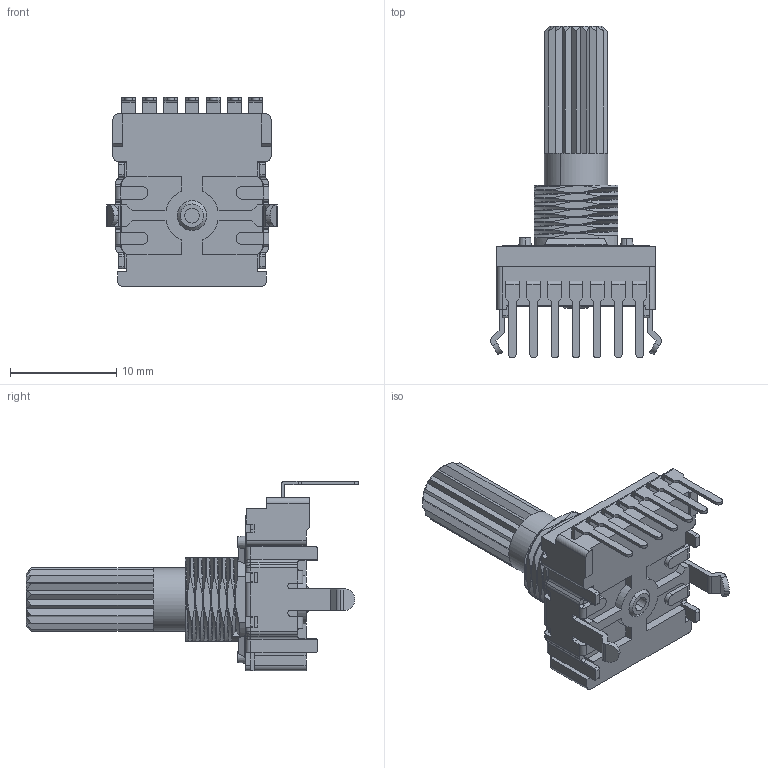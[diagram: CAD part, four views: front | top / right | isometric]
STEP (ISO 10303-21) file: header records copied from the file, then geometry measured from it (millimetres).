
FILE_DESCRIPTION (( 'STEP AP203' ), '1' );
FILE_NAME ('P140KH1-Y20.STEP', '2026-09-15T18:48:59', ( '' ), ( '' ), 'SwSTEP 2.0', 'SolidWorks 2026', '' );
FILE_SCHEMA (( 'CONFIG_CONTROL_DESIGN' ));
Length unit declared in the file: millimetre
Products named in the file (8): spring_plate; KH1 bracket; bushing; 1-Y20; Housing; KH-housing; V-terminal; P140KH1-Y20
Assembly tree (13 placements, depth 3):
  P140KH1-Y20
    KH-housing
      Housing
      V-terminal  x7
    1-Y20
    spring_plate
    bushing
    KH1 bracket
Bounding box: 16.1 x 31.3 x 17.85 mm (x, y, z)
Volume: 1651.8 mm3; surface area: 3211.9 mm2
Topology: 12 solids, 12 shells, 841 faces, 2270 edges, 1446 vertices
Faces by surface type: plane 509, cylinder 228, bspline 65, cone 33, sphere 4, torus 2
Entity records: 38066 total; most frequent: CARTESIAN_POINT 18759, ORIENTED_EDGE 4092, DIRECTION 3489, EDGE_CURVE 2046, VERTEX_POINT 1302, VECTOR 1265, LINE 1265, AXIS2_PLACEMENT_3D 1112
